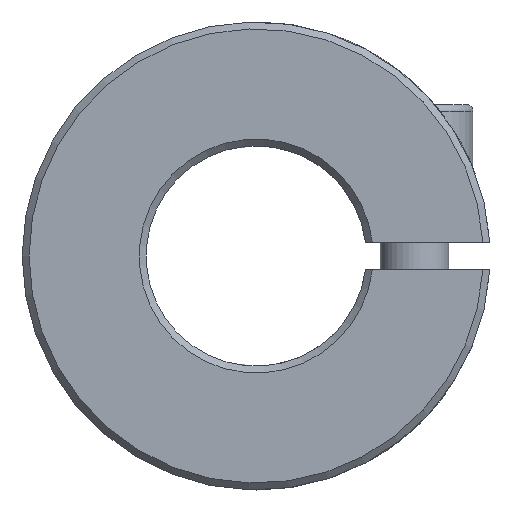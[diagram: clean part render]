
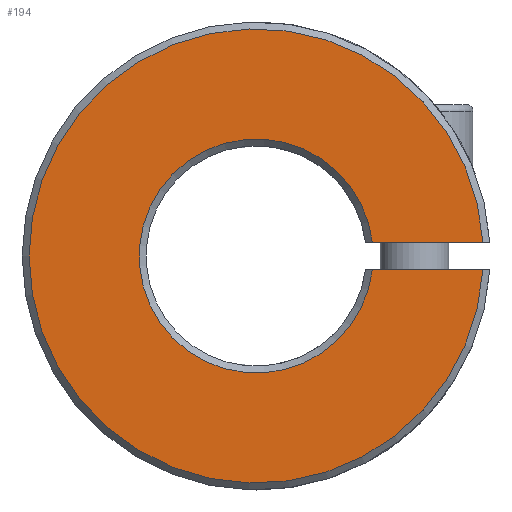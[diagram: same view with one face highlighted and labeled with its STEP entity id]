
A CAD part, front view. The second image highlights one B-rep face of the part: STEP entity #194.
In plain terms, the highlighted planar face has unit normal (0, -1, 0).
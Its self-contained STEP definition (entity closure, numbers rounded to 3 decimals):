
#194 = ADVANCED_FACE( '', ( #387 ), #388, .F. );
#387 = FACE_OUTER_BOUND( '', #601, .T. );
#388 = PLANE( '', #602 );
#601 = EDGE_LOOP( '', ( #911, #912, #913, #914 ) );
#602 = AXIS2_PLACEMENT_3D( '', #915, #916, #917 );
#911 = ORIENTED_EDGE( '', *, *, #1260, .F. );
#912 = ORIENTED_EDGE( '', *, *, #1236, .T. );
#913 = ORIENTED_EDGE( '', *, *, #1261, .T. );
#914 = ORIENTED_EDGE( '', *, *, #1183, .T. );
#915 = CARTESIAN_POINT( '', ( 0., -50., 0. ) );
#916 = DIRECTION( '', ( 0., 1., 0. ) );
#917 = DIRECTION( '', ( 0., 0., 1. ) );
#1183 = EDGE_CURVE( '', #1367, #1364, #1368, .F. );
#1236 = EDGE_CURVE( '', #1451, #1455, #1457, .T. );
#1260 = EDGE_CURVE( '', #1451, #1364, #1489, .T. );
#1261 = EDGE_CURVE( '', #1455, #1367, #1490, .T. );
#1364 = VERTEX_POINT( '', #1671 );
#1367 = VERTEX_POINT( '', #1677 );
#1368 = CIRCLE( '', #1678, 16.5 );
#1451 = VERTEX_POINT( '', #2228 );
#1455 = VERTEX_POINT( '', #2235 );
#1457 = CIRCLE( '', #2240, 8.5 );
#1489 = LINE( '', #2296, #2297 );
#1490 = LINE( '', #2298, #2299 );
#1671 = CARTESIAN_POINT( '', ( 16.47, -50., -1. ) );
#1677 = CARTESIAN_POINT( '', ( 16.47, -50., 1. ) );
#1678 = AXIS2_PLACEMENT_3D( '', #2416, #2417, #2418 );
#2228 = CARTESIAN_POINT( '', ( 8.441, -50., -1. ) );
#2235 = CARTESIAN_POINT( '', ( 8.441, -50., 1. ) );
#2240 = AXIS2_PLACEMENT_3D( '', #2478, #2479, #2480 );
#2296 = CARTESIAN_POINT( '', ( 0., -50., -1. ) );
#2297 = VECTOR( '', #2505, 1000. );
#2298 = CARTESIAN_POINT( '', ( 0., -50., 1. ) );
#2299 = VECTOR( '', #2506, 1000. );
#2416 = CARTESIAN_POINT( '', ( 0., -50., 0. ) );
#2417 = DIRECTION( '', ( 0., 1., 0. ) );
#2418 = DIRECTION( '', ( 0., 0., 1. ) );
#2478 = CARTESIAN_POINT( '', ( 0., -50., 0. ) );
#2479 = DIRECTION( '', ( 0., 1., 0. ) );
#2480 = DIRECTION( '', ( 0., 0., 1. ) );
#2505 = DIRECTION( '', ( 1., 0., 0. ) );
#2506 = DIRECTION( '', ( 1., 0., 0. ) );
